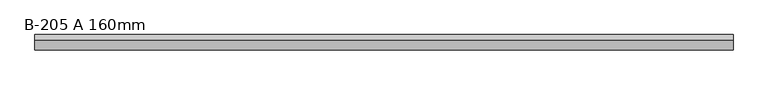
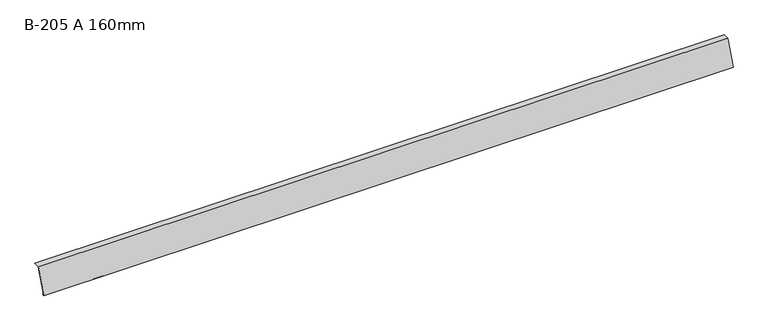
"""IFC4 building model written with IfcOpenShell, lengths in millimetres: proxy geometry, GROVIK_Flashing_Eaves : B-205 A 160mm."""

import ifcopenshell
import ifcopenshell.guid

model = None  # the IFC model being written
_history = None  # IfcOwnerHistory: only IFC2X3 demands one
_inside = {}  # id of a spatial element -> (the spatial element, [elements in it])
_under = {}  # id of a project, library or spatial element -> (it, [spatial elements below it])
_declared = {}  # id of a project -> (the project, [libraries it declares])
_typed = {}  # id of a type object -> (the type object, [elements of that type])
_made_of = {}  # id of a material, layer set ... -> (it, [elements and type objects made of it])


def new_model(schema):
    """Start an empty IFC model of exactly this schema.

    Asked for "IFC4X3", IfcOpenShell would pick the latest addendum, in which some entities
    have other attributes; the version numbers below select the first issue.
    IFC2X3 requires an IfcOwnerHistory on every rooted entity: one is made here for all.
    """
    global model, _history
    if schema == "IFC4X3":
        model = ifcopenshell.file(schema_version=(4, 3, 0, 0))
    else:
        model = ifcopenshell.file(schema=schema)
    _inside.clear()
    _under.clear()
    _declared.clear()
    _typed.clear()
    _made_of.clear()
    _history = None
    if model.schema == "IFC2X3":
        org = make("IfcOrganization", Name="unknown")
        user = make(
            "IfcPersonAndOrganization",
            ThePerson=make("IfcPerson", FamilyName="unknown"),
            TheOrganization=org,
        )
        app = make(
            "IfcApplication",
            ApplicationDeveloper=org,
            Version="unknown",
            ApplicationFullName="unknown",
            ApplicationIdentifier="unknown",
        )
        _history = make(
            "IfcOwnerHistory",
            OwningUser=user,
            OwningApplication=app,
            ChangeAction="ADDED",
            CreationDate=0,
        )
    return model


def make(cls, **values):
    """One entity of the class cls with the attributes given. An attribute that is None is left unset."""
    return model.create_entity(
        cls, **{name: value for name, value in values.items() if value is not None}
    )


def rooted(cls, **values):
    """An entity with a GlobalId (a new one), such as an element, a storey or a relation."""
    return make(cls, GlobalId=ifcopenshell.guid.new(), OwnerHistory=_history, **values)


def si_unit(unit_type, name, prefix=None):
    """IfcSIUnit, for example si_unit("LENGTHUNIT", "METRE", prefix="MILLI")."""
    return make("IfcSIUnit", UnitType=unit_type, Prefix=prefix, Name=name)


def assignment(units):
    """IfcUnitAssignment: the units of a project."""
    return None if units is None else make("IfcUnitAssignment", Units=units)


def point(xyz):
    """IfcCartesianPoint."""
    return None if xyz is None else make("IfcCartesianPoint", Coordinates=xyz)


def direction(xyz):
    """IfcDirection."""
    return None if xyz is None else make("IfcDirection", DirectionRatios=xyz)


def frame(location, z_axis=None, x_axis=None):
    """IfcAxis2Placement3D, a coordinate frame: its origin and axes. An axis left out is left unset."""
    return make(
        "IfcAxis2Placement3D",
        Location=point(location),
        Axis=direction(z_axis),
        RefDirection=direction(x_axis),
    )


def origin():
    """The frame at (0, 0, 0) with its axes left unset."""
    return frame((0.0, 0.0, 0.0))


def place(relative_to, where):
    """IfcLocalPlacement: puts the frame where relative to a parent placement (None: the world)."""
    return make(
        "IfcLocalPlacement", PlacementRelTo=relative_to, RelativePlacement=where
    )


def context(
    kind, dimensions, precision=None, world=None, true_north=None, identifier=None
):
    """IfcGeometricRepresentationContext, for example the 3D "Model" context."""
    return make(
        "IfcGeometricRepresentationContext",
        ContextIdentifier=identifier,
        ContextType=kind,
        CoordinateSpaceDimension=dimensions,
        Precision=precision,
        WorldCoordinateSystem=world,
        TrueNorth=true_north,
    )


def project(units=None, contexts=None):
    """IfcProject with its units and contexts."""
    return rooted(
        "IfcProject",
        Name="project",
        RepresentationContexts=contexts,
        UnitsInContext=assignment(units),
    )


def spatial(cls, under=None, at=None, **own):
    """A site, building, storey or space (cls), placed at a placement, below another one or the project."""
    s = rooted(cls, ObjectPlacement=at, **own)
    if under is not None:
        _under.setdefault(under.id(), (under, []))[1].append(s)
    return s


def polyline(points):
    """IfcPolyline through the points."""
    return make("IfcPolyline", Points=[point(p) for p in points])


def outline(outer, holes=None, kind="AREA"):
    """IfcArbitraryClosedProfileDef: a profile drawn as a closed curve; with holes, ...WithVoids."""
    if holes is None:
        return make("IfcArbitraryClosedProfileDef", ProfileType=kind, OuterCurve=outer)
    return make(
        "IfcArbitraryProfileDefWithVoids",
        ProfileType=kind,
        OuterCurve=outer,
        InnerCurves=holes,
    )


def extrude(swept, where, along, depth):
    """IfcExtrudedAreaSolid: the profile swept, set in the frame where, extruded along a direction by depth."""
    return make(
        "IfcExtrudedAreaSolid",
        SweptArea=swept,
        Position=where,
        ExtrudedDirection=direction(along),
        Depth=depth,
    )


def shape(context_of_items, identifier, shape_type, items):
    """IfcShapeRepresentation: the items that make up one representation, for example the "Body"."""
    return make(
        "IfcShapeRepresentation",
        ContextOfItems=context_of_items,
        RepresentationIdentifier=identifier,
        RepresentationType=shape_type,
        Items=items,
    )


def source(mapping_origin, context_of_items, identifier, shape_type, items):
    """IfcRepresentationMap: a shape defined once, which mapped items show again and again."""
    return make(
        "IfcRepresentationMap",
        MappingOrigin=mapping_origin,
        MappedRepresentation=shape(context_of_items, identifier, shape_type, items),
    )


def transform(
    local_origin,
    x_axis=None,
    y_axis=None,
    z_axis=None,
    scale=None,
    scale2=None,
    scale3=None,
    uniform=True,
):
    """IfcCartesianTransformationOperator3D, or its non-uniform kind. x_axis, y_axis, z_axis: its Axis1, 2, 3."""
    if uniform:
        return make(
            "IfcCartesianTransformationOperator3D",
            Axis1=direction(x_axis),
            Axis2=direction(y_axis),
            LocalOrigin=point(local_origin),
            Scale=scale,
            Axis3=direction(z_axis),
        )
    return make(
        "IfcCartesianTransformationOperator3DnonUniform",
        Axis1=direction(x_axis),
        Axis2=direction(y_axis),
        LocalOrigin=point(local_origin),
        Scale=scale,
        Axis3=direction(z_axis),
        Scale2=scale2,
        Scale3=scale3,
    )


def mapped(mapping_source, mapping_target):
    """IfcMappedItem: shows the shape of a source again, moved by a transform."""
    return make(
        "IfcMappedItem", MappingSource=mapping_source, MappingTarget=mapping_target
    )


def made_of(thing, what):
    """Note that an element or type object is made of a material, layer set ...; save() writes the relation."""
    if what is not None:
        _made_of.setdefault(what.id(), (what, []))[1].append(thing)
    return thing


def element(
    cls,
    number,
    at=None,
    inside=None,
    cuts=None,
    type_object=None,
    material=None,
    context=None,
    identifier="Body",
    shape_type=None,
    held_by="IfcProductDefinitionShape",
    body=None,
    shapes=None,
    **own,
):
    """One element of the class cls, such as IfcWall. Its Tag is "e" and its number.

    at: its placement. inside: the storey or other place that contains it. cuts: it is an
    opening in that element (IfcRelVoidsElement). A single representation is given by context,
    identifier, shape_type and body (its items); several are given by shapes. held_by: the class
    of the entity that holds the representations. save() writes the other relations.
    """
    e = rooted(cls, Tag="e%d" % number, ObjectPlacement=at, **own)
    if body is not None:
        shapes = [shape(context, identifier, shape_type, body)]
    if shapes is not None:
        e.Representation = make(held_by, Representations=shapes)
    if inside is not None:
        _inside.setdefault(inside.id(), (inside, []))[1].append(e)
    if cuts is not None:
        rooted(
            "IfcRelVoidsElement", RelatingBuildingElement=cuts, RelatedOpeningElement=e
        )
    if type_object is not None:
        _typed.setdefault(type_object.id(), (type_object, []))[1].append(e)
    return made_of(e, material)


def aggregate(whole, parts):
    """IfcRelAggregates: a whole, such as a stair, and the parts it consists of."""
    return rooted("IfcRelAggregates", RelatingObject=whole, RelatedObjects=parts)


def save(model, path):
    """Write the relations noted so far, then the file.

    IfcRelAggregates (storeys below a building ...), IfcRelContainedInSpatialStructure (elements
    in a storey), IfcRelDefinesByType, IfcRelAssociatesMaterial and IfcRelDeclares: one each for
    every whole, place, type object, material and project.
    """
    for whole, parts in _under.values():
        aggregate(whole, parts)
    for where, things in _inside.values():
        rooted(
            "IfcRelContainedInSpatialStructure",
            RelatedElements=things,
            RelatingStructure=where,
        )
    for kind, things in _typed.values():
        rooted("IfcRelDefinesByType", RelatedObjects=things, RelatingType=kind)
    for what, things in _made_of.values():
        rooted("IfcRelAssociatesMaterial", RelatedObjects=things, RelatingMaterial=what)
    for by, libraries in _declared.values():
        rooted("IfcRelDeclares", RelatingContext=by, RelatedDefinitions=libraries)
    model.write(path)


def b_205_a_160mm_fea3069e(model_context):
    return source(origin(), model_context, "Body", "SweptSolid", [
        extrude(outline(polyline([(-0.6918582, 0.9880759), (-57.9129574, -148.077984), (-48.2100002, -145.6587651), (-47.9680783, -146.6290608), (-59.5349563, -149.5130074), (-1.3837164, 1.9761518), (33.9599168, 2.5930772), (33.9773692, 1.5932295), (-0.6918582, 0.9880759)])), frame((0.0, 0.0, 0.0), z_axis=(1.0, 0.0, 0.0), x_axis=(0.0, 1.0, 0.0)), (0.0, 0.0, 1.0), 4200.0),
    ])


if __name__ == "__main__":
    model = new_model("IFC4")
    model_context = context("Model", 3, world=origin())
    ifc_project = project(units=[si_unit("LENGTHUNIT", "METRE", prefix="MILLI")], contexts=[model_context])
    site = spatial("IfcSite", under=ifc_project)
    building = spatial("IfcBuilding", under=site)
    placement = place(None, origin())
    b_205_a_160mm_shape = b_205_a_160mm_fea3069e(model_context)
    element("IfcBuildingElementProxy", 1, Name="GROVIK_Flashing_Eaves : B-205 A 160mm", ObjectType="GROVIK_Flashing_Eaves : B-205 A 160mm", at=placement, inside=building, context=model_context, shape_type="MappedRepresentation", body=[
        mapped(b_205_a_160mm_shape, transform((0.0, 0.0, 0.0), x_axis=(1.0, 0.0, 0.0), y_axis=(0.0, 1.0, 0.0), z_axis=(0.0, 0.0, 1.0))),
    ])
    save(model, "model.ifc")
